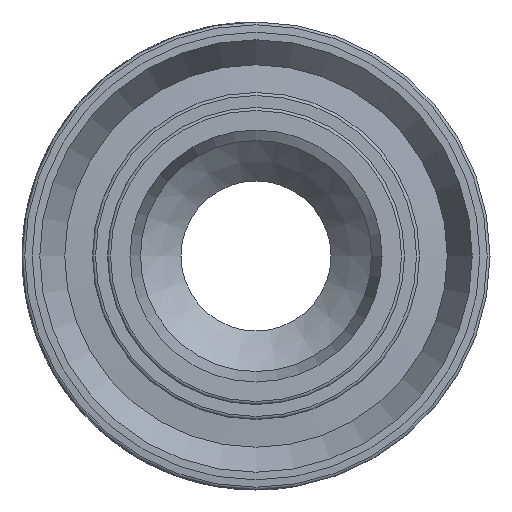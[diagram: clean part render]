
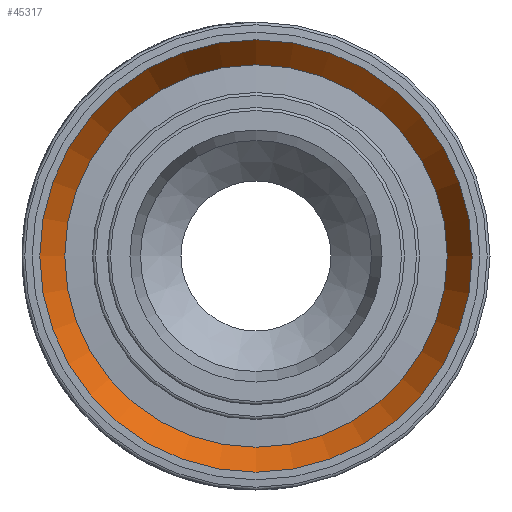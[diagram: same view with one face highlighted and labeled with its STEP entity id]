
A CAD part, left-side view. The second image highlights one B-rep face of the part: STEP entity #45317.
In plain terms, the highlighted conical face has half-angle 29.862 degrees and reference radius 13.582 mm.
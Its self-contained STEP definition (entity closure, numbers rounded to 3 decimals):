
#65=CONICAL_SURFACE('',#47297,13.583,0.521);
#4887=FACE_OUTER_BOUND('',#7600,.T.);
#7600=EDGE_LOOP('',(#42051,#42052,#42053,#42054,#42055,#42056));
#13425=LINE('',#104258,#16386);
#16386=VECTOR('',#54303,13.583);
#17271=CIRCLE('',#47295,12.75);
#17272=CIRCLE('',#47296,12.75);
#17273=CIRCLE('',#47298,14.415);
#17274=CIRCLE('',#47299,14.415);
#21908=VERTEX_POINT('',#104251);
#21909=VERTEX_POINT('',#104253);
#21910=VERTEX_POINT('',#104257);
#21911=VERTEX_POINT('',#104259);
#28679=EDGE_CURVE('',#21909,#21908,#17271,.T.);
#28680=EDGE_CURVE('',#21908,#21909,#17272,.T.);
#28681=EDGE_CURVE('',#21908,#21910,#13425,.T.);
#28682=EDGE_CURVE('',#21911,#21910,#17273,.T.);
#28683=EDGE_CURVE('',#21910,#21911,#17274,.T.);
#42051=ORIENTED_EDGE('',*,*,#28679,.T.);
#42052=ORIENTED_EDGE('',*,*,#28681,.T.);
#42053=ORIENTED_EDGE('',*,*,#28682,.F.);
#42054=ORIENTED_EDGE('',*,*,#28683,.F.);
#42055=ORIENTED_EDGE('',*,*,#28681,.F.);
#42056=ORIENTED_EDGE('',*,*,#28680,.T.);
#45317=ADVANCED_FACE('',(#4887),#65,.F.);
#47295=AXIS2_PLACEMENT_3D('',#104254,#54297,#54298);
#47296=AXIS2_PLACEMENT_3D('',#104255,#54299,#54300);
#47297=AXIS2_PLACEMENT_3D('',#104256,#54301,#54302);
#47298=AXIS2_PLACEMENT_3D('',#104260,#54304,#54305);
#47299=AXIS2_PLACEMENT_3D('',#104261,#54306,#54307);
#54297=DIRECTION('center_axis',(1.,0.,0.));
#54298=DIRECTION('ref_axis',(0.,0.,-1.));
#54299=DIRECTION('center_axis',(1.,0.,0.));
#54300=DIRECTION('ref_axis',(0.,0.,-1.));
#54301=DIRECTION('center_axis',(-1.,0.,0.));
#54302=DIRECTION('ref_axis',(0.,1.,0.));
#54303=DIRECTION('',(-0.867,-0.498,0.));
#54304=DIRECTION('center_axis',(1.,0.,0.));
#54305=DIRECTION('ref_axis',(0.,0.,-1.));
#54306=DIRECTION('center_axis',(1.,0.,0.));
#54307=DIRECTION('ref_axis',(0.,0.,-1.));
#104251=CARTESIAN_POINT('',(-29.816,-12.75,0.));
#104253=CARTESIAN_POINT('',(-29.816,12.75,0.));
#104254=CARTESIAN_POINT('Origin',(-29.816,0.,0.));
#104255=CARTESIAN_POINT('Origin',(-29.816,0.,0.));
#104256=CARTESIAN_POINT('Origin',(-31.266,0.,0.));
#104257=CARTESIAN_POINT('',(-32.716,-14.415,0.));
#104258=CARTESIAN_POINT('',(-31.266,-13.583,0.));
#104259=CARTESIAN_POINT('',(-32.716,14.415,0.));
#104260=CARTESIAN_POINT('Origin',(-32.716,0.,0.));
#104261=CARTESIAN_POINT('Origin',(-32.716,0.,0.));
